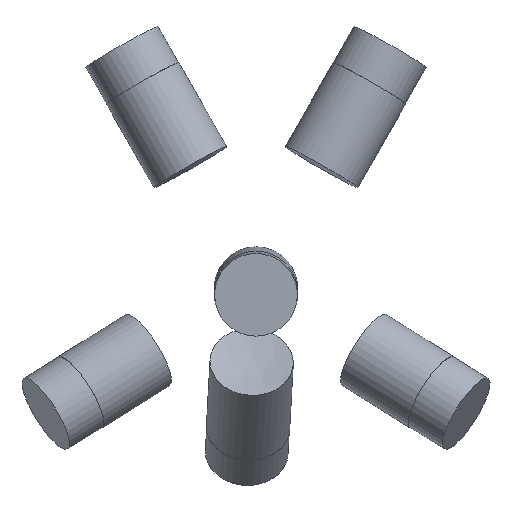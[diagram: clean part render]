
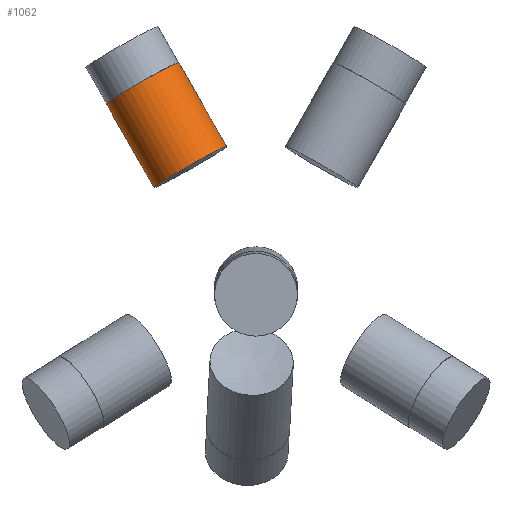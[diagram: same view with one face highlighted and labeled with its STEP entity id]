
A CAD part, front view. The second image highlights one B-rep face of the part: STEP entity #1062.
In plain terms, the highlighted cylindrical face has radius 6 mm (diameter 12 mm), a full revolution.
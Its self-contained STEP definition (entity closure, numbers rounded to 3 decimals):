
#33 = SPHERICAL_SURFACE('',#34,20.);
#34 = AXIS2_PLACEMENT_3D('',#35,#36,#37);
#35 = CARTESIAN_POINT('',(0.,0.,0.));
#36 = DIRECTION('',(0.,0.,1.));
#37 = DIRECTION('',(1.,0.,-0.));
#665 = EDGE_CURVE('',#666,#666,#668,.T.);
#666 = VERTEX_POINT('',#667);
#667 = CARTESIAN_POINT('',(-4.224,0.861,
    19.53));
#668 = SURFACE_CURVE('',#669,(#674,#771),.PCURVE_S1.);
#669 = CIRCLE('',#670,6.);
#670 = AXIS2_PLACEMENT_3D('',#671,#672,#673);
#671 = CARTESIAN_POINT('',(-9.437,0.861,
    16.559));
#672 = DIRECTION('',(-0.495,0.045,0.868));
#673 = DIRECTION('',(-0.869,0.,-0.495
    ));
#674 = PCURVE('',#33,#675);
#675 = DEFINITIONAL_REPRESENTATION('',(#676),#770);
#676 = B_SPLINE_CURVE_WITH_KNOTS('',8,(#677,#678,#679,#680,#681,#682,
    #683,#684,#685,#686,#687,#688,#689,#690,#691,#692,#693,#694,#695,
    #696,#697,#698,#699,#700,#701,#702,#703,#704,#705,#706,#707,#708,
    #709,#710,#711,#712,#713,#714,#715,#716,#717,#718,#719,#720,#721,
    #722,#723,#724,#725,#726,#727,#728,#729,#730,#731,#732,#733,#734,
    #735,#736,#737,#738,#739,#740,#741,#742,#743,#744,#745,#746,#747,
    #748,#749,#750,#751,#752,#753,#754,#755,#756,#757,#758,#759,#760,
    #761,#762,#763,#764,#765,#766,#767,#768,#769),.UNSPECIFIED.,.T.,.F.,
  (9,7,7,7,7,7,7,7,7,7,7,7,7,9),(3.142,3.338,
    3.528,3.897,4.242,4.89,
    6.024,6.874,7.512,7.99,
    8.349,8.887,9.156,9.425),
  .UNSPECIFIED.);
#677 = CARTESIAN_POINT('',(2.94,1.354));
#678 = CARTESIAN_POINT('',(2.907,1.352));
#679 = CARTESIAN_POINT('',(2.874,1.35));
#680 = CARTESIAN_POINT('',(2.842,1.348));
#681 = CARTESIAN_POINT('',(2.811,1.345));
#682 = CARTESIAN_POINT('',(2.781,1.342));
#683 = CARTESIAN_POINT('',(2.753,1.339));
#684 = CARTESIAN_POINT('',(2.726,1.335));
#685 = CARTESIAN_POINT('',(2.676,1.327));
#686 = CARTESIAN_POINT('',(2.652,1.322));
#687 = CARTESIAN_POINT('',(2.63,1.318));
#688 = CARTESIAN_POINT('',(2.61,1.313));
#689 = CARTESIAN_POINT('',(2.591,1.308));
#690 = CARTESIAN_POINT('',(2.573,1.302));
#691 = CARTESIAN_POINT('',(2.556,1.297));
#692 = CARTESIAN_POINT('',(2.512,1.28));
#693 = CARTESIAN_POINT('',(2.487,1.268));
#694 = CARTESIAN_POINT('',(2.466,1.256));
#695 = CARTESIAN_POINT('',(2.449,1.243));
#696 = CARTESIAN_POINT('',(2.436,1.23));
#697 = CARTESIAN_POINT('',(2.425,1.216));
#698 = CARTESIAN_POINT('',(2.417,1.203));
#699 = CARTESIAN_POINT('',(2.406,1.176));
#700 = CARTESIAN_POINT('',(2.402,1.163));
#701 = CARTESIAN_POINT('',(2.401,1.151));
#702 = CARTESIAN_POINT('',(2.401,1.138));
#703 = CARTESIAN_POINT('',(2.402,1.125));
#704 = CARTESIAN_POINT('',(2.405,1.112));
#705 = CARTESIAN_POINT('',(2.408,1.099));
#706 = CARTESIAN_POINT('',(2.422,1.062));
#707 = CARTESIAN_POINT('',(2.435,1.038));
#708 = CARTESIAN_POINT('',(2.45,1.015));
#709 = CARTESIAN_POINT('',(2.468,0.993));
#710 = CARTESIAN_POINT('',(2.488,0.971));
#711 = CARTESIAN_POINT('',(2.51,0.95));
#712 = CARTESIAN_POINT('',(2.533,0.93));
#713 = CARTESIAN_POINT('',(2.6,0.878));
#714 = CARTESIAN_POINT('',(2.648,0.847));
#715 = CARTESIAN_POINT('',(2.698,0.821));
#716 = CARTESIAN_POINT('',(2.751,0.798));
#717 = CARTESIAN_POINT('',(2.806,0.779));
#718 = CARTESIAN_POINT('',(2.862,0.765));
#719 = CARTESIAN_POINT('',(2.919,0.755));
#720 = CARTESIAN_POINT('',(3.02,0.746));
#721 = CARTESIAN_POINT('',(3.064,0.744));
#722 = CARTESIAN_POINT('',(3.107,0.746));
#723 = CARTESIAN_POINT('',(3.151,0.75));
#724 = CARTESIAN_POINT('',(3.194,0.756));
#725 = CARTESIAN_POINT('',(3.236,0.766));
#726 = CARTESIAN_POINT('',(3.278,0.777));
#727 = CARTESIAN_POINT('',(3.349,0.802));
#728 = CARTESIAN_POINT('',(3.379,0.813));
#729 = CARTESIAN_POINT('',(3.409,0.827));
#730 = CARTESIAN_POINT('',(3.437,0.841));
#731 = CARTESIAN_POINT('',(3.465,0.856));
#732 = CARTESIAN_POINT('',(3.492,0.873));
#733 = CARTESIAN_POINT('',(3.517,0.891));
#734 = CARTESIAN_POINT('',(3.56,0.923));
#735 = CARTESIAN_POINT('',(3.578,0.938));
#736 = CARTESIAN_POINT('',(3.594,0.953));
#737 = CARTESIAN_POINT('',(3.61,0.969));
#738 = CARTESIAN_POINT('',(3.625,0.985));
#739 = CARTESIAN_POINT('',(3.638,1.001));
#740 = CARTESIAN_POINT('',(3.651,1.018));
#741 = CARTESIAN_POINT('',(3.67,1.048));
#742 = CARTESIAN_POINT('',(3.677,1.061));
#743 = CARTESIAN_POINT('',(3.684,1.074));
#744 = CARTESIAN_POINT('',(3.689,1.087));
#745 = CARTESIAN_POINT('',(3.694,1.1));
#746 = CARTESIAN_POINT('',(3.697,1.114));
#747 = CARTESIAN_POINT('',(3.699,1.127));
#748 = CARTESIAN_POINT('',(3.699,1.161));
#749 = CARTESIAN_POINT('',(3.696,1.181));
#750 = CARTESIAN_POINT('',(3.689,1.201));
#751 = CARTESIAN_POINT('',(3.677,1.221));
#752 = CARTESIAN_POINT('',(3.659,1.24));
#753 = CARTESIAN_POINT('',(3.634,1.259));
#754 = CARTESIAN_POINT('',(3.6,1.276));
#755 = CARTESIAN_POINT('',(3.534,1.301));
#756 = CARTESIAN_POINT('',(3.509,1.308));
#757 = CARTESIAN_POINT('',(3.482,1.316));
#758 = CARTESIAN_POINT('',(3.452,1.322));
#759 = CARTESIAN_POINT('',(3.419,1.329));
#760 = CARTESIAN_POINT('',(3.384,1.334));
#761 = CARTESIAN_POINT('',(3.345,1.339));
#762 = CARTESIAN_POINT('',(3.264,1.348));
#763 = CARTESIAN_POINT('',(3.221,1.351));
#764 = CARTESIAN_POINT('',(3.176,1.354));
#765 = CARTESIAN_POINT('',(3.129,1.356));
#766 = CARTESIAN_POINT('',(3.081,1.356));
#767 = CARTESIAN_POINT('',(3.034,1.356));
#768 = CARTESIAN_POINT('',(2.986,1.355));
#769 = CARTESIAN_POINT('',(2.94,1.354));
#770 = ( GEOMETRIC_REPRESENTATION_CONTEXT(2) 
PARAMETRIC_REPRESENTATION_CONTEXT() REPRESENTATION_CONTEXT('2D SPACE',''
  ) );
#771 = PCURVE('',#772,#777);
#772 = CYLINDRICAL_SURFACE('',#773,6.);
#773 = AXIS2_PLACEMENT_3D('',#774,#775,#776);
#774 = CARTESIAN_POINT('',(0.,0.,0.));
#775 = DIRECTION('',(-0.495,0.045,0.868));
#776 = DIRECTION('',(0.869,0.,0.495));
#777 = DEFINITIONAL_REPRESENTATION('',(#778),#782);
#778 = LINE('',#779,#780);
#779 = CARTESIAN_POINT('',(-3.142,19.079));
#780 = VECTOR('',#781,1.);
#781 = DIRECTION('',(1.,0.));
#782 = ( GEOMETRIC_REPRESENTATION_CONTEXT(2) 
PARAMETRIC_REPRESENTATION_CONTEXT() REPRESENTATION_CONTEXT('2D SPACE',''
  ) );
#1062 = ADVANCED_FACE('',(#1063),#772,.T.);
#1063 = FACE_BOUND('',#1064,.T.);
#1064 = EDGE_LOOP('',(#1065,#1088,#1115,#1116));
#1065 = ORIENTED_EDGE('',*,*,#1066,.T.);
#1066 = EDGE_CURVE('',#666,#1067,#1069,.T.);
#1067 = VERTEX_POINT('',#1068);
#1068 = CARTESIAN_POINT('',(-11.094,1.488,
    31.585));
#1069 = SEAM_CURVE('',#1070,(#1074,#1081),.PCURVE_S1.);
#1070 = LINE('',#1071,#1072);
#1071 = CARTESIAN_POINT('',(5.213,0.,
    2.971));
#1072 = VECTOR('',#1073,1.);
#1073 = DIRECTION('',(-0.495,0.045,0.868)
  );
#1074 = PCURVE('',#772,#1075);
#1075 = DEFINITIONAL_REPRESENTATION('',(#1076),#1080);
#1076 = LINE('',#1077,#1078);
#1077 = CARTESIAN_POINT('',(6.283,-0.));
#1078 = VECTOR('',#1079,1.);
#1079 = DIRECTION('',(0.,1.));
#1080 = ( GEOMETRIC_REPRESENTATION_CONTEXT(2) 
PARAMETRIC_REPRESENTATION_CONTEXT() REPRESENTATION_CONTEXT('2D SPACE',''
  ) );
#1081 = PCURVE('',#772,#1082);
#1082 = DEFINITIONAL_REPRESENTATION('',(#1083),#1087);
#1083 = LINE('',#1084,#1085);
#1084 = CARTESIAN_POINT('',(0.,-0.));
#1085 = VECTOR('',#1086,1.);
#1086 = DIRECTION('',(0.,1.));
#1087 = ( GEOMETRIC_REPRESENTATION_CONTEXT(2) 
PARAMETRIC_REPRESENTATION_CONTEXT() REPRESENTATION_CONTEXT('2D SPACE',''
  ) );
#1088 = ORIENTED_EDGE('',*,*,#1089,.F.);
#1089 = EDGE_CURVE('',#1067,#1067,#1090,.T.);
#1090 = SURFACE_CURVE('',#1091,(#1096,#1103),.PCURVE_S1.);
#1091 = CIRCLE('',#1092,6.);
#1092 = AXIS2_PLACEMENT_3D('',#1093,#1094,#1095);
#1093 = CARTESIAN_POINT('',(-16.306,1.488,
    28.615));
#1094 = DIRECTION('',(-0.495,0.045,0.868)
  );
#1095 = DIRECTION('',(0.869,0.,0.495));
#1096 = PCURVE('',#772,#1097);
#1097 = DEFINITIONAL_REPRESENTATION('',(#1098),#1102);
#1098 = LINE('',#1099,#1100);
#1099 = CARTESIAN_POINT('',(0.,32.969));
#1100 = VECTOR('',#1101,1.);
#1101 = DIRECTION('',(1.,0.));
#1102 = ( GEOMETRIC_REPRESENTATION_CONTEXT(2) 
PARAMETRIC_REPRESENTATION_CONTEXT() REPRESENTATION_CONTEXT('2D SPACE',''
  ) );
#1103 = PCURVE('',#1104,#1109);
#1104 = PLANE('',#1105);
#1105 = AXIS2_PLACEMENT_3D('',#1106,#1107,#1108);
#1106 = CARTESIAN_POINT('',(-16.306,1.488,
    28.615));
#1107 = DIRECTION('',(-0.495,0.045,0.868)
  );
#1108 = DIRECTION('',(0.869,0.,0.495)
  );
#1109 = DEFINITIONAL_REPRESENTATION('',(#1110),#1114);
#1110 = CIRCLE('',#1111,6.);
#1111 = AXIS2_PLACEMENT_2D('',#1112,#1113);
#1112 = CARTESIAN_POINT('',(0.,0.));
#1113 = DIRECTION('',(1.,0.));
#1114 = ( GEOMETRIC_REPRESENTATION_CONTEXT(2) 
PARAMETRIC_REPRESENTATION_CONTEXT() REPRESENTATION_CONTEXT('2D SPACE',''
  ) );
#1115 = ORIENTED_EDGE('',*,*,#1066,.F.);
#1116 = ORIENTED_EDGE('',*,*,#665,.T.);
